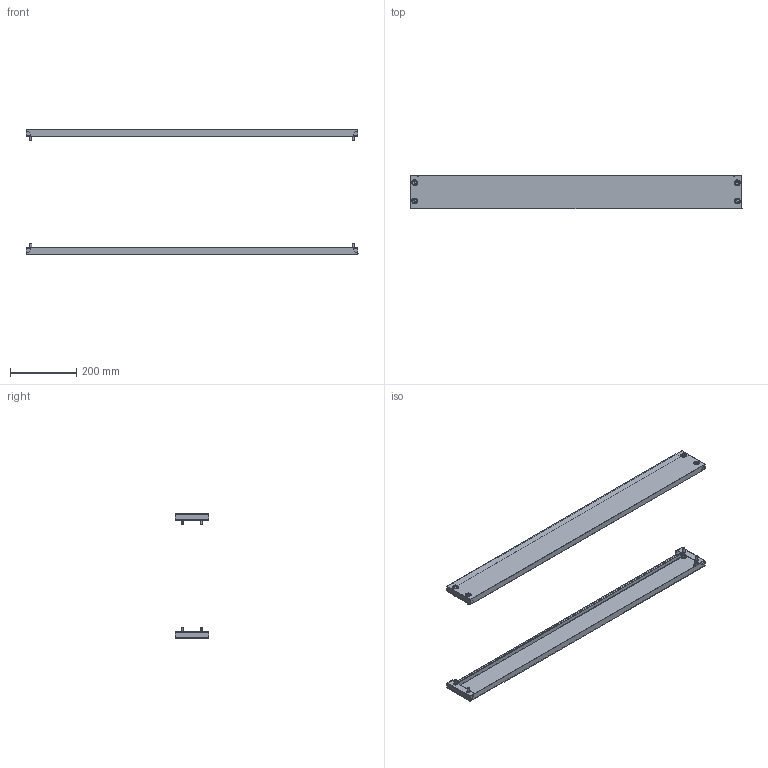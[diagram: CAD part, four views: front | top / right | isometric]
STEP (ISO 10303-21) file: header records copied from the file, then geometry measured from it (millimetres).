
FILE_DESCRIPTION (( 'STEP AP203' ), '1' );
FILE_NAME ('R5FZ1-400.STEP', '2025-06-18T08:40:29', ( '' ), ( '' ), 'SwSTEP 2.0', 'SolidWorks 2022', '' );
FILE_SCHEMA (( 'CONFIG_CONTROL_DESIGN' ));
Length unit declared in the file: millimetre
Products named in the file (5): R5FZ1-400; M6x16 DIN 912 HX cl.4,8 Zinc_stright; Plug_11.5-13Д18ЧК_-00; 6 DIN 6798 A Zinc; RB.1055.00.00.0 simple_-04 (1000)
Assembly tree (26 placements, depth 2):
  R5FZ1-400
    RB.1055.00.00.0 simple_-04 (1000)  x2
    M6x16 DIN 912 HX cl.4,8 Zinc_stright  x8
    6 DIN 6798 A Zinc  x8
    Plug_11.5-13Д18ЧК_-00  x8
Bounding box: 999 x 100.05 x 378.5 mm (x, y, z)
Volume: 473580.9 mm3; surface area: 640543.7 mm2
Topology: 26 solids, 26 shells, 1196 faces, 3456 edges, 2112 vertices
Faces by surface type: plane 700, bspline 208, cylinder 128, cone 96, torus 48, sphere 16
Entity records: 9921 total; most frequent: CARTESIAN_POINT 2626, ORIENTED_EDGE 1352, DIRECTION 1188, EDGE_CURVE 676, LINE 448, VECTOR 448, VERTEX_POINT 444, AXIS2_PLACEMENT_3D 370
